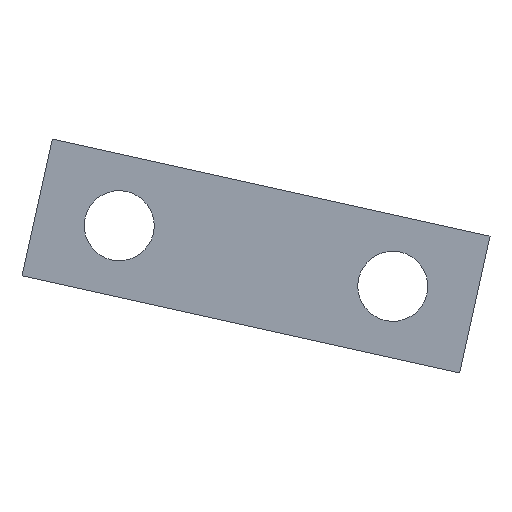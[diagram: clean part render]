
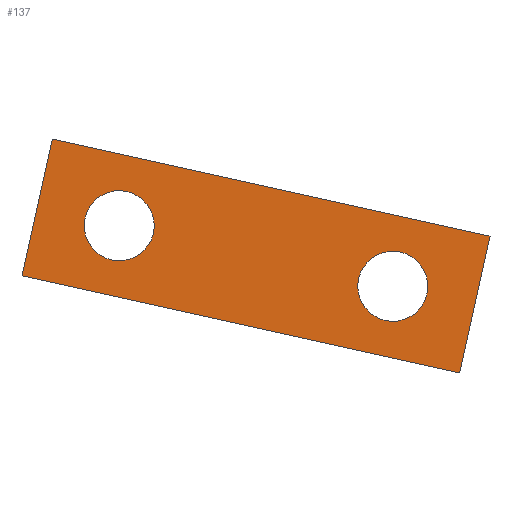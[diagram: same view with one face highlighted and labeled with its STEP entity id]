
A CAD part, front view. The second image highlights one B-rep face of the part: STEP entity #137.
In plain terms, the highlighted planar face has unit normal (0, -1, 0).
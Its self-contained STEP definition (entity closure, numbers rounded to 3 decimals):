
#21 = EDGE_CURVE('',#22,#24,#26,.T.);
#22 = VERTEX_POINT('',#23);
#23 = CARTESIAN_POINT('',(-34.009,13.,56.91));
#24 = VERTEX_POINT('',#25);
#25 = CARTESIAN_POINT('',(-31.844,13.,66.673));
#26 = SURFACE_CURVE('',#27,(#31,#43),.PCURVE_S1.);
#27 = LINE('',#28,#29);
#28 = CARTESIAN_POINT('',(-34.009,13.,56.91));
#29 = VECTOR('',#30,1.);
#30 = DIRECTION('',(0.216,0.,0.976));
#31 = PCURVE('',#32,#37);
#32 = PLANE('',#33);
#33 = AXIS2_PLACEMENT_3D('',#34,#35,#36);
#34 = CARTESIAN_POINT('',(-34.009,13.,56.91));
#35 = DIRECTION('',(0.976,0.,-0.216));
#36 = DIRECTION('',(0.216,0.,0.976));
#37 = DEFINITIONAL_REPRESENTATION('',(#38),#42);
#38 = LINE('',#39,#40);
#39 = CARTESIAN_POINT('',(0.,0.));
#40 = VECTOR('',#41,1.);
#41 = DIRECTION('',(1.,0.));
#42 = ( GEOMETRIC_REPRESENTATION_CONTEXT(2) 
PARAMETRIC_REPRESENTATION_CONTEXT() REPRESENTATION_CONTEXT('2D SPACE',''
  ) );
#43 = PCURVE('',#44,#49);
#44 = PLANE('',#45);
#45 = AXIS2_PLACEMENT_3D('',#46,#47,#48);
#46 = CARTESIAN_POINT('',(-34.009,13.,56.91));
#47 = DIRECTION('',(0.,1.,0.));
#48 = DIRECTION('',(0.216,0.,0.976));
#49 = DEFINITIONAL_REPRESENTATION('',(#50),#54);
#50 = LINE('',#51,#52);
#51 = CARTESIAN_POINT('',(0.,0.));
#52 = VECTOR('',#53,1.);
#53 = DIRECTION('',(1.,0.));
#54 = ( GEOMETRIC_REPRESENTATION_CONTEXT(2) 
PARAMETRIC_REPRESENTATION_CONTEXT() REPRESENTATION_CONTEXT('2D SPACE',''
  ) );
#72 = PLANE('',#73);
#73 = AXIS2_PLACEMENT_3D('',#74,#75,#76);
#74 = CARTESIAN_POINT('',(-34.009,13.,56.91));
#75 = DIRECTION('',(0.216,0.,0.976));
#76 = DIRECTION('',(0.976,0.,-0.216));
#126 = PLANE('',#127);
#127 = AXIS2_PLACEMENT_3D('',#128,#129,#130);
#128 = CARTESIAN_POINT('',(-31.844,13.,66.673));
#129 = DIRECTION('',(0.216,0.,0.976));
#130 = DIRECTION('',(0.976,0.,-0.216));
#137 = ADVANCED_FACE('',(#138,#213,#248),#44,.F.);
#138 = FACE_BOUND('',#139,.F.);
#139 = EDGE_LOOP('',(#140,#163,#164,#187));
#140 = ORIENTED_EDGE('',*,*,#141,.F.);
#141 = EDGE_CURVE('',#22,#142,#144,.T.);
#142 = VERTEX_POINT('',#143);
#143 = CARTESIAN_POINT('',(-2.767,13.,49.984));
#144 = SURFACE_CURVE('',#145,(#149,#156),.PCURVE_S1.);
#145 = LINE('',#146,#147);
#146 = CARTESIAN_POINT('',(-34.009,13.,56.91));
#147 = VECTOR('',#148,1.);
#148 = DIRECTION('',(0.976,0.,-0.216));
#149 = PCURVE('',#44,#150);
#150 = DEFINITIONAL_REPRESENTATION('',(#151),#155);
#151 = LINE('',#152,#153);
#152 = CARTESIAN_POINT('',(0.,0.));
#153 = VECTOR('',#154,1.);
#154 = DIRECTION('',(0.,1.));
#155 = ( GEOMETRIC_REPRESENTATION_CONTEXT(2) 
PARAMETRIC_REPRESENTATION_CONTEXT() REPRESENTATION_CONTEXT('2D SPACE',''
  ) );
#156 = PCURVE('',#72,#157);
#157 = DEFINITIONAL_REPRESENTATION('',(#158),#162);
#158 = LINE('',#159,#160);
#159 = CARTESIAN_POINT('',(0.,0.));
#160 = VECTOR('',#161,1.);
#161 = DIRECTION('',(1.,0.));
#162 = ( GEOMETRIC_REPRESENTATION_CONTEXT(2) 
PARAMETRIC_REPRESENTATION_CONTEXT() REPRESENTATION_CONTEXT('2D SPACE',''
  ) );
#163 = ORIENTED_EDGE('',*,*,#21,.T.);
#164 = ORIENTED_EDGE('',*,*,#165,.T.);
#165 = EDGE_CURVE('',#24,#166,#168,.T.);
#166 = VERTEX_POINT('',#167);
#167 = CARTESIAN_POINT('',(-0.603,13.,59.747));
#168 = SURFACE_CURVE('',#169,(#173,#180),.PCURVE_S1.);
#169 = LINE('',#170,#171);
#170 = CARTESIAN_POINT('',(-31.844,13.,66.673));
#171 = VECTOR('',#172,1.);
#172 = DIRECTION('',(0.976,0.,-0.216));
#173 = PCURVE('',#44,#174);
#174 = DEFINITIONAL_REPRESENTATION('',(#175),#179);
#175 = LINE('',#176,#177);
#176 = CARTESIAN_POINT('',(10.,0.));
#177 = VECTOR('',#178,1.);
#178 = DIRECTION('',(0.,1.));
#179 = ( GEOMETRIC_REPRESENTATION_CONTEXT(2) 
PARAMETRIC_REPRESENTATION_CONTEXT() REPRESENTATION_CONTEXT('2D SPACE',''
  ) );
#180 = PCURVE('',#126,#181);
#181 = DEFINITIONAL_REPRESENTATION('',(#182),#186);
#182 = LINE('',#183,#184);
#183 = CARTESIAN_POINT('',(0.,0.));
#184 = VECTOR('',#185,1.);
#185 = DIRECTION('',(1.,0.));
#186 = ( GEOMETRIC_REPRESENTATION_CONTEXT(2) 
PARAMETRIC_REPRESENTATION_CONTEXT() REPRESENTATION_CONTEXT('2D SPACE',''
  ) );
#187 = ORIENTED_EDGE('',*,*,#188,.F.);
#188 = EDGE_CURVE('',#142,#166,#189,.T.);
#189 = SURFACE_CURVE('',#190,(#194,#201),.PCURVE_S1.);
#190 = LINE('',#191,#192);
#191 = CARTESIAN_POINT('',(-2.767,13.,49.984));
#192 = VECTOR('',#193,1.);
#193 = DIRECTION('',(0.216,0.,0.976));
#194 = PCURVE('',#44,#195);
#195 = DEFINITIONAL_REPRESENTATION('',(#196),#200);
#196 = LINE('',#197,#198);
#197 = CARTESIAN_POINT('',(0.,32.));
#198 = VECTOR('',#199,1.);
#199 = DIRECTION('',(1.,0.));
#200 = ( GEOMETRIC_REPRESENTATION_CONTEXT(2) 
PARAMETRIC_REPRESENTATION_CONTEXT() REPRESENTATION_CONTEXT('2D SPACE',''
  ) );
#201 = PCURVE('',#202,#207);
#202 = PLANE('',#203);
#203 = AXIS2_PLACEMENT_3D('',#204,#205,#206);
#204 = CARTESIAN_POINT('',(-2.767,13.,49.984));
#205 = DIRECTION('',(0.976,0.,-0.216));
#206 = DIRECTION('',(0.216,0.,0.976));
#207 = DEFINITIONAL_REPRESENTATION('',(#208),#212);
#208 = LINE('',#209,#210);
#209 = CARTESIAN_POINT('',(0.,0.));
#210 = VECTOR('',#211,1.);
#211 = DIRECTION('',(1.,0.));
#212 = ( GEOMETRIC_REPRESENTATION_CONTEXT(2) 
PARAMETRIC_REPRESENTATION_CONTEXT() REPRESENTATION_CONTEXT('2D SPACE',''
  ) );
#213 = FACE_BOUND('',#214,.F.);
#214 = EDGE_LOOP('',(#215));
#215 = ORIENTED_EDGE('',*,*,#216,.T.);
#216 = EDGE_CURVE('',#217,#217,#219,.T.);
#217 = VERTEX_POINT('',#218);
#218 = CARTESIAN_POINT('',(-24.628,13.,59.952));
#219 = SURFACE_CURVE('',#220,(#225,#236),.PCURVE_S1.);
#220 = CIRCLE('',#221,2.5);
#221 = AXIS2_PLACEMENT_3D('',#222,#223,#224);
#222 = CARTESIAN_POINT('',(-27.069,13.,60.493));
#223 = DIRECTION('',(0.,-1.,0.));
#224 = DIRECTION('',(0.976,0.,-0.216));
#225 = PCURVE('',#44,#226);
#226 = DEFINITIONAL_REPRESENTATION('',(#227),#235);
#227 = ( BOUNDED_CURVE() B_SPLINE_CURVE(2,(#228,#229,#230,#231,#232,#233
,#234),.UNSPECIFIED.,.T.,.F.) B_SPLINE_CURVE_WITH_KNOTS((1,2,2,2,2,1),(
    -2.094,0.,2.094,4.189,6.283,
8.378),.UNSPECIFIED.) CURVE() GEOMETRIC_REPRESENTATION_ITEM() 
RATIONAL_B_SPLINE_CURVE((1.,0.5,1.,0.5,1.,0.5,1.)) REPRESENTATION_ITEM(
  '') );
#228 = CARTESIAN_POINT('',(5.,8.5));
#229 = CARTESIAN_POINT('',(9.33,8.5));
#230 = CARTESIAN_POINT('',(7.165,4.75));
#231 = CARTESIAN_POINT('',(5.,1.));
#232 = CARTESIAN_POINT('',(2.835,4.75));
#233 = CARTESIAN_POINT('',(0.67,8.5));
#234 = CARTESIAN_POINT('',(5.,8.5));
#235 = ( GEOMETRIC_REPRESENTATION_CONTEXT(2) 
PARAMETRIC_REPRESENTATION_CONTEXT() REPRESENTATION_CONTEXT('2D SPACE',''
  ) );
#236 = PCURVE('',#237,#242);
#237 = CYLINDRICAL_SURFACE('',#238,2.5);
#238 = AXIS2_PLACEMENT_3D('',#239,#240,#241);
#239 = CARTESIAN_POINT('',(-27.069,0.,60.493));
#240 = DIRECTION('',(0.,-1.,-0.));
#241 = DIRECTION('',(0.976,0.,-0.216));
#242 = DEFINITIONAL_REPRESENTATION('',(#243),#247);
#243 = LINE('',#244,#245);
#244 = CARTESIAN_POINT('',(-6.283,-13.));
#245 = VECTOR('',#246,1.);
#246 = DIRECTION('',(1.,-0.));
#247 = ( GEOMETRIC_REPRESENTATION_CONTEXT(2) 
PARAMETRIC_REPRESENTATION_CONTEXT() REPRESENTATION_CONTEXT('2D SPACE',''
  ) );
#248 = FACE_BOUND('',#249,.F.);
#249 = EDGE_LOOP('',(#250));
#250 = ORIENTED_EDGE('',*,*,#251,.T.);
#251 = EDGE_CURVE('',#252,#252,#254,.T.);
#252 = VERTEX_POINT('',#253);
#253 = CARTESIAN_POINT('',(-5.102,13.,55.623));
#254 = SURFACE_CURVE('',#255,(#260,#271),.PCURVE_S1.);
#255 = CIRCLE('',#256,2.5);
#256 = AXIS2_PLACEMENT_3D('',#257,#258,#259);
#257 = CARTESIAN_POINT('',(-7.543,13.,56.164));
#258 = DIRECTION('',(0.,-1.,0.));
#259 = DIRECTION('',(0.976,0.,-0.216));
#260 = PCURVE('',#44,#261);
#261 = DEFINITIONAL_REPRESENTATION('',(#262),#270);
#262 = ( BOUNDED_CURVE() B_SPLINE_CURVE(2,(#263,#264,#265,#266,#267,#268
,#269),.UNSPECIFIED.,.T.,.F.) B_SPLINE_CURVE_WITH_KNOTS((1,2,2,2,2,1),(
    -2.094,0.,2.094,4.189,6.283,
8.378),.UNSPECIFIED.) CURVE() GEOMETRIC_REPRESENTATION_ITEM() 
RATIONAL_B_SPLINE_CURVE((1.,0.5,1.,0.5,1.,0.5,1.)) REPRESENTATION_ITEM(
  '') );
#263 = CARTESIAN_POINT('',(5.,28.5));
#264 = CARTESIAN_POINT('',(9.33,28.5));
#265 = CARTESIAN_POINT('',(7.165,24.75));
#266 = CARTESIAN_POINT('',(5.,21.));
#267 = CARTESIAN_POINT('',(2.835,24.75));
#268 = CARTESIAN_POINT('',(0.67,28.5));
#269 = CARTESIAN_POINT('',(5.,28.5));
#270 = ( GEOMETRIC_REPRESENTATION_CONTEXT(2) 
PARAMETRIC_REPRESENTATION_CONTEXT() REPRESENTATION_CONTEXT('2D SPACE',''
  ) );
#271 = PCURVE('',#272,#277);
#272 = CYLINDRICAL_SURFACE('',#273,2.5);
#273 = AXIS2_PLACEMENT_3D('',#274,#275,#276);
#274 = CARTESIAN_POINT('',(-7.543,0.,56.164));
#275 = DIRECTION('',(0.,-1.,-0.));
#276 = DIRECTION('',(0.976,0.,-0.216));
#277 = DEFINITIONAL_REPRESENTATION('',(#278),#282);
#278 = LINE('',#279,#280);
#279 = CARTESIAN_POINT('',(-6.283,-13.));
#280 = VECTOR('',#281,1.);
#281 = DIRECTION('',(1.,-0.));
#282 = ( GEOMETRIC_REPRESENTATION_CONTEXT(2) 
PARAMETRIC_REPRESENTATION_CONTEXT() REPRESENTATION_CONTEXT('2D SPACE',''
  ) );
